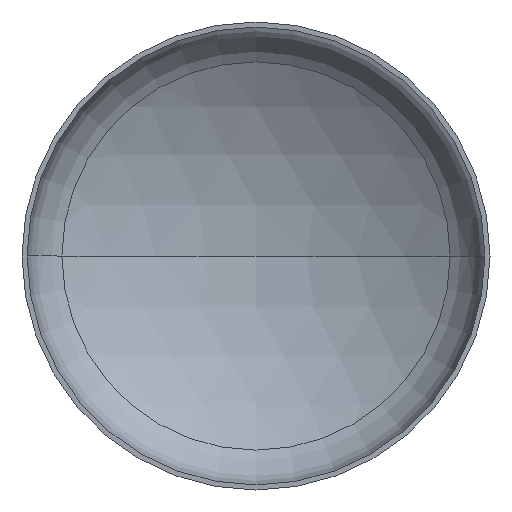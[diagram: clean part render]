
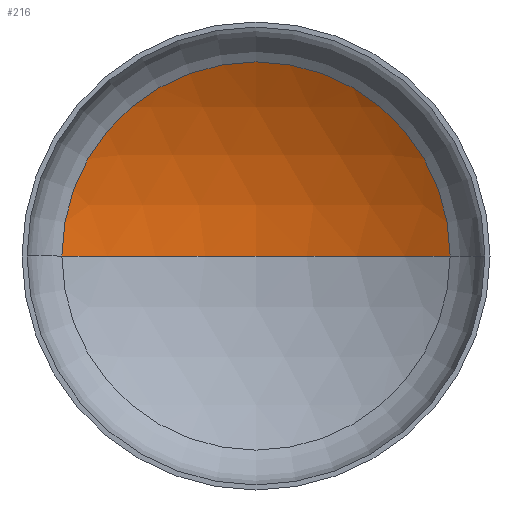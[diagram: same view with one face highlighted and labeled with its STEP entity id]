
A CAD part, front view. The second image highlights one B-rep face of the part: STEP entity #216.
In plain terms, the highlighted spherical face has radius 2720 mm.
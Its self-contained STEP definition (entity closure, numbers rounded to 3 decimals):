
#1 = VERTEX_POINT ( 'NONE', #260 ) ;
#10 = EDGE_LOOP ( 'NONE', ( #53, #36, #236 ) ) ;
#13 = AXIS2_PLACEMENT_3D ( 'NONE', #153, #128, #158 ) ;
#36 = ORIENTED_EDGE ( 'NONE', *, *, #161, .T. ) ;
#51 = AXIS2_PLACEMENT_3D ( 'NONE', #275, #262, #242 ) ;
#53 = ORIENTED_EDGE ( 'NONE', *, *, #363, .F. ) ;
#54 = AXIS2_PLACEMENT_3D ( 'NONE', #215, #229, #223 ) ;
#56 = DIRECTION ( 'NONE',  ( 1., 0., 0. ) ) ;
#62 = AXIS2_PLACEMENT_3D ( 'NONE', #249, #270, #56 ) ;
#95 = VERTEX_POINT ( 'NONE', #238 ) ;
#119 = CIRCLE ( 'NONE', #62, 1410.187 ) ;
#128 = DIRECTION ( 'NONE',  ( 0., 0., 1. ) ) ;
#153 = CARTESIAN_POINT ( 'NONE',  ( 0., -1756.961, 0. ) ) ;
#154 = EDGE_CURVE ( 'NONE', #95, #169, #119, .T. ) ;
#158 = DIRECTION ( 'NONE',  ( 1., 0., 0. ) ) ;
#161 = EDGE_CURVE ( 'NONE', #1, #95, #201, .T. ) ;
#169 = VERTEX_POINT ( 'NONE', #246 ) ;
#201 = CIRCLE ( 'NONE', #54, 2720. ) ;
#215 = CARTESIAN_POINT ( 'NONE',  ( 0., -1756.961, 0. ) ) ;
#216 = ADVANCED_FACE ( 'NONE', ( #372 ), #259, .F. ) ;
#223 = DIRECTION ( 'NONE',  ( -1., 0., 0. ) ) ;
#229 = DIRECTION ( 'NONE',  ( 0., 0., -1. ) ) ;
#236 = ORIENTED_EDGE ( 'NONE', *, *, #154, .T. ) ;
#238 = CARTESIAN_POINT ( 'NONE',  ( 1410.187, 568.931, 0. ) ) ;
#242 = DIRECTION ( 'NONE',  ( -1., 0., 0. ) ) ;
#246 = CARTESIAN_POINT ( 'NONE',  ( -1410.187, 568.931, 0. ) ) ;
#249 = CARTESIAN_POINT ( 'NONE',  ( 0., 568.931, 0. ) ) ;
#259 = SPHERICAL_SURFACE ( 'NONE', #51, 2720. ) ;
#260 = CARTESIAN_POINT ( 'NONE',  ( 0., 963.039, 0. ) ) ;
#262 = DIRECTION ( 'NONE',  ( 0., 0., -1. ) ) ;
#270 = DIRECTION ( 'NONE',  ( 0., -1., 0. ) ) ;
#275 = CARTESIAN_POINT ( 'NONE',  ( 0., -1756.961, 0. ) ) ;
#280 = CIRCLE ( 'NONE', #13, 2720. ) ;
#363 = EDGE_CURVE ( 'NONE', #1, #169, #280, .T. ) ;
#372 = FACE_OUTER_BOUND ( 'NONE', #10, .T. ) ;
